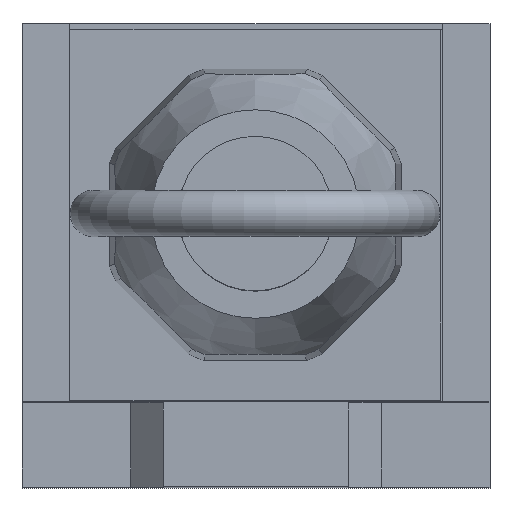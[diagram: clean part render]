
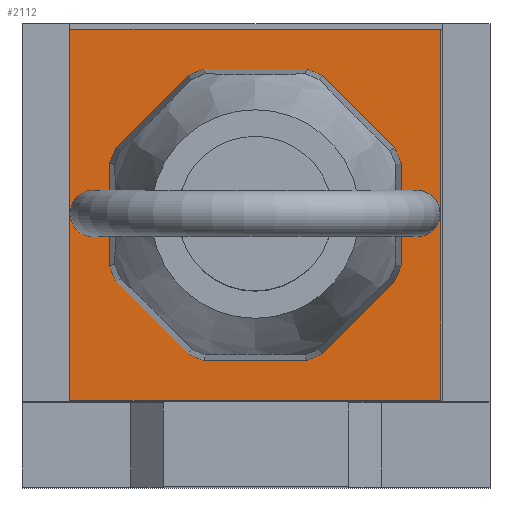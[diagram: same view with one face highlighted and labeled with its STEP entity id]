
A CAD part, top view. The second image highlights one B-rep face of the part: STEP entity #2112.
In plain terms, the highlighted planar face has unit normal (0, 0, 1) as drawn and (0, 1, 0) by its records, which use the part's own axes.
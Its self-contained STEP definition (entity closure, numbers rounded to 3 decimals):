
#1353=CARTESIAN_POINT('',(12.,20.0,12.));
#1354=VERTEX_POINT('',#1353);
#1361=CARTESIAN_POINT('',(-12.,20.,12.));
#1362=VERTEX_POINT('',#1361);
#1363=CARTESIAN_POINT('',(-12.,20.,12.));
#1364=DIRECTION('',(1.0,0.0,0.0));
#1365=VECTOR('',#1364,24.);
#1366=LINE('',#1363,#1365);
#1367=EDGE_CURVE('',#1362,#1354,#1366,.T.);
#1384=CARTESIAN_POINT('',(12.,20.0,-12.));
#1385=VERTEX_POINT('',#1384);
#1392=CARTESIAN_POINT('',(12.,20.0,-12.));
#1393=DIRECTION('',(0.0,0.0,1.0));
#1394=VECTOR('',#1393,24.);
#1395=LINE('',#1392,#1394);
#1396=EDGE_CURVE('',#1385,#1354,#1395,.T.);
#1656=CARTESIAN_POINT('',(-4.339,20.0,-9.01));
#1657=VERTEX_POINT('',#1656);
#1671=CARTESIAN_POINT('',(-9.01,20.0,-4.339));
#1672=VERTEX_POINT('',#1671);
#1673=CARTESIAN_POINT('',(-4.339,20.0,-9.01));
#1674=DIRECTION('',(-0.707,0.0,0.707));
#1675=VECTOR('',#1674,6.606);
#1676=LINE('',#1673,#1675);
#1677=EDGE_CURVE('',#1657,#1672,#1676,.T.);
#1701=CARTESIAN_POINT('',(-3.303,20.0,-9.439));
#1702=VERTEX_POINT('',#1701);
#1709=CARTESIAN_POINT('',(0.,20.0,0.0));
#1710=DIRECTION('',(0.0,-1.0,0.0));
#1711=DIRECTION('',(-1.0,0.0,0.0));
#1712=AXIS2_PLACEMENT_3D('',#1709,#1710,#1711);
#1713=CIRCLE('',#1712,10.0);
#1714=EDGE_CURVE('',#1657,#1702,#1713,.T.);
#1726=CARTESIAN_POINT('',(3.303,20.0,-9.439));
#1727=VERTEX_POINT('',#1726);
#1734=CARTESIAN_POINT('',(3.303,20.0,-9.439));
#1735=DIRECTION('',(-1.0,0.0,0.0));
#1736=VECTOR('',#1735,6.606);
#1737=LINE('',#1734,#1736);
#1738=EDGE_CURVE('',#1727,#1702,#1737,.T.);
#1750=CARTESIAN_POINT('',(4.339,20.0,-9.01));
#1751=VERTEX_POINT('',#1750);
#1765=CARTESIAN_POINT('',(0.,20.0,0.0));
#1766=DIRECTION('',(0.0,-1.0,0.0));
#1767=DIRECTION('',(-1.0,0.0,0.0));
#1768=AXIS2_PLACEMENT_3D('',#1765,#1766,#1767);
#1769=CIRCLE('',#1768,10.0);
#1770=EDGE_CURVE('',#1727,#1751,#1769,.T.);
#1782=CARTESIAN_POINT('',(9.01,20.0,-4.339));
#1783=VERTEX_POINT('',#1782);
#1797=CARTESIAN_POINT('',(9.01,20.0,-4.339));
#1798=DIRECTION('',(-0.707,0.0,-0.707));
#1799=VECTOR('',#1798,6.606);
#1800=LINE('',#1797,#1799);
#1801=EDGE_CURVE('',#1783,#1751,#1800,.T.);
#1813=CARTESIAN_POINT('',(9.439,20.0,-3.303));
#1814=VERTEX_POINT('',#1813);
#1828=CARTESIAN_POINT('',(0.,20.0,0.0));
#1829=DIRECTION('',(0.0,-1.0,0.0));
#1830=DIRECTION('',(-1.0,0.0,0.0));
#1831=AXIS2_PLACEMENT_3D('',#1828,#1829,#1830);
#1832=CIRCLE('',#1831,10.0);
#1833=EDGE_CURVE('',#1783,#1814,#1832,.T.);
#1845=CARTESIAN_POINT('',(9.439,20.0,3.303));
#1846=VERTEX_POINT('',#1845);
#1860=CARTESIAN_POINT('',(9.439,20.0,3.303));
#1861=DIRECTION('',(0.0,0.0,-1.0));
#1862=VECTOR('',#1861,6.606);
#1863=LINE('',#1860,#1862);
#1864=EDGE_CURVE('',#1846,#1814,#1863,.T.);
#1876=CARTESIAN_POINT('',(9.01,20.0,4.339));
#1877=VERTEX_POINT('',#1876);
#1891=CARTESIAN_POINT('',(0.,20.0,0.0));
#1892=DIRECTION('',(0.0,-1.0,0.0));
#1893=DIRECTION('',(-1.0,0.0,0.0));
#1894=AXIS2_PLACEMENT_3D('',#1891,#1892,#1893);
#1895=CIRCLE('',#1894,10.0);
#1896=EDGE_CURVE('',#1846,#1877,#1895,.T.);
#1908=CARTESIAN_POINT('',(-3.303,20.0,9.439));
#1909=VERTEX_POINT('',#1908);
#1916=CARTESIAN_POINT('',(3.303,20.0,9.439));
#1917=VERTEX_POINT('',#1916);
#1918=CARTESIAN_POINT('',(-3.303,20.0,9.439));
#1919=DIRECTION('',(1.0,0.0,0.0));
#1920=VECTOR('',#1919,6.606);
#1921=LINE('',#1918,#1920);
#1922=EDGE_CURVE('',#1909,#1917,#1921,.T.);
#1939=CARTESIAN_POINT('',(-9.01,20.0,4.339));
#1940=VERTEX_POINT('',#1939);
#1954=CARTESIAN_POINT('',(-4.339,20.0,9.01));
#1955=VERTEX_POINT('',#1954);
#1956=CARTESIAN_POINT('',(-9.01,20.0,4.339));
#1957=DIRECTION('',(0.707,0.0,0.707));
#1958=VECTOR('',#1957,6.606);
#1959=LINE('',#1956,#1958);
#1960=EDGE_CURVE('',#1940,#1955,#1959,.T.);
#1984=CARTESIAN_POINT('',(-9.439,20.,-3.303));
#1985=VERTEX_POINT('',#1984);
#1999=CARTESIAN_POINT('',(-9.439,20.,3.303));
#2000=VERTEX_POINT('',#1999);
#2001=CARTESIAN_POINT('',(-9.439,20.,-3.303));
#2002=DIRECTION('',(0.0,0.0,1.0));
#2003=VECTOR('',#2002,6.606);
#2004=LINE('',#2001,#2003);
#2005=EDGE_CURVE('',#1985,#2000,#2004,.T.);
#2022=CARTESIAN_POINT('',(4.339,20.0,9.01));
#2023=VERTEX_POINT('',#2022);
#2037=CARTESIAN_POINT('',(4.339,20.0,9.01));
#2038=DIRECTION('',(0.707,0.0,-0.707));
#2039=VECTOR('',#2038,6.606);
#2040=LINE('',#2037,#2039);
#2041=EDGE_CURVE('',#2023,#1877,#2040,.T.);
#2047=CARTESIAN_POINT('',(-12.,20.,0.0));
#2048=DIRECTION('',(0.0,1.0,0.0));
#2049=DIRECTION('',(0.0,0.0,1.0));
#2050=AXIS2_PLACEMENT_3D('',#2047,#2048,#2049);
#2051=PLANE('',#2050);
#2052=ORIENTED_EDGE('',*,*,#1367,.T.);
#2053=ORIENTED_EDGE('',*,*,#1396,.F.);
#2054=CARTESIAN_POINT('',(-12.,20.,-12.));
#2055=VERTEX_POINT('',#2054);
#2056=CARTESIAN_POINT('',(12.,20.0,-12.));
#2057=DIRECTION('',(-1.0,0.0,0.0));
#2058=VECTOR('',#2057,24.);
#2059=LINE('',#2056,#2058);
#2060=EDGE_CURVE('',#1385,#2055,#2059,.T.);
#2061=ORIENTED_EDGE('',*,*,#2060,.T.);
#2062=CARTESIAN_POINT('',(-12.,20.,-12.));
#2063=DIRECTION('',(0.0,0.0,1.0));
#2064=VECTOR('',#2063,24.);
#2065=LINE('',#2062,#2064);
#2066=EDGE_CURVE('',#2055,#1362,#2065,.T.);
#2067=ORIENTED_EDGE('',*,*,#2066,.T.);
#2068=EDGE_LOOP('',(#2052,#2053,#2061,#2067));
#2069=FACE_OUTER_BOUND('',#2068,.T.);
#2070=CARTESIAN_POINT('',(0.,20.0,0.0));
#2071=DIRECTION('',(0.0,-1.0,0.0));
#2072=DIRECTION('',(-1.0,0.0,0.0));
#2073=AXIS2_PLACEMENT_3D('',#2070,#2071,#2072);
#2074=CIRCLE('',#2073,10.0);
#2075=EDGE_CURVE('',#1909,#1955,#2074,.T.);
#2076=ORIENTED_EDGE('',*,*,#2075,.T.);
#2077=ORIENTED_EDGE('',*,*,#1960,.F.);
#2078=CARTESIAN_POINT('',(0.,20.0,0.0));
#2079=DIRECTION('',(0.0,-1.0,0.0));
#2080=DIRECTION('',(-1.0,0.0,0.0));
#2081=AXIS2_PLACEMENT_3D('',#2078,#2079,#2080);
#2082=CIRCLE('',#2081,10.0);
#2083=EDGE_CURVE('',#1940,#2000,#2082,.T.);
#2084=ORIENTED_EDGE('',*,*,#2083,.T.);
#2085=ORIENTED_EDGE('',*,*,#2005,.F.);
#2086=CARTESIAN_POINT('',(0.,20.0,0.0));
#2087=DIRECTION('',(0.0,-1.0,0.0));
#2088=DIRECTION('',(-1.0,0.0,0.0));
#2089=AXIS2_PLACEMENT_3D('',#2086,#2087,#2088);
#2090=CIRCLE('',#2089,10.0);
#2091=EDGE_CURVE('',#1985,#1672,#2090,.T.);
#2092=ORIENTED_EDGE('',*,*,#2091,.T.);
#2093=ORIENTED_EDGE('',*,*,#1677,.F.);
#2094=ORIENTED_EDGE('',*,*,#1714,.T.);
#2095=ORIENTED_EDGE('',*,*,#1738,.F.);
#2096=ORIENTED_EDGE('',*,*,#1770,.T.);
#2097=ORIENTED_EDGE('',*,*,#1801,.F.);
#2098=ORIENTED_EDGE('',*,*,#1833,.T.);
#2099=ORIENTED_EDGE('',*,*,#1864,.F.);
#2100=ORIENTED_EDGE('',*,*,#1896,.T.);
#2101=ORIENTED_EDGE('',*,*,#2041,.F.);
#2102=CARTESIAN_POINT('',(0.,20.0,0.0));
#2103=DIRECTION('',(0.0,-1.0,0.0));
#2104=DIRECTION('',(-1.0,0.0,0.0));
#2105=AXIS2_PLACEMENT_3D('',#2102,#2103,#2104);
#2106=CIRCLE('',#2105,10.0);
#2107=EDGE_CURVE('',#2023,#1917,#2106,.T.);
#2108=ORIENTED_EDGE('',*,*,#2107,.T.);
#2109=ORIENTED_EDGE('',*,*,#1922,.F.);
#2110=EDGE_LOOP('',(#2076,#2077,#2084,#2085,#2092,#2093,#2094,#2095,#2096,#2097,#2098,#2099,#2100,#2101,#2108,#2109));
#2111=FACE_BOUND('',#2110,.T.);
#2112=ADVANCED_FACE('',(#2069,#2111),#2051,.T.);
